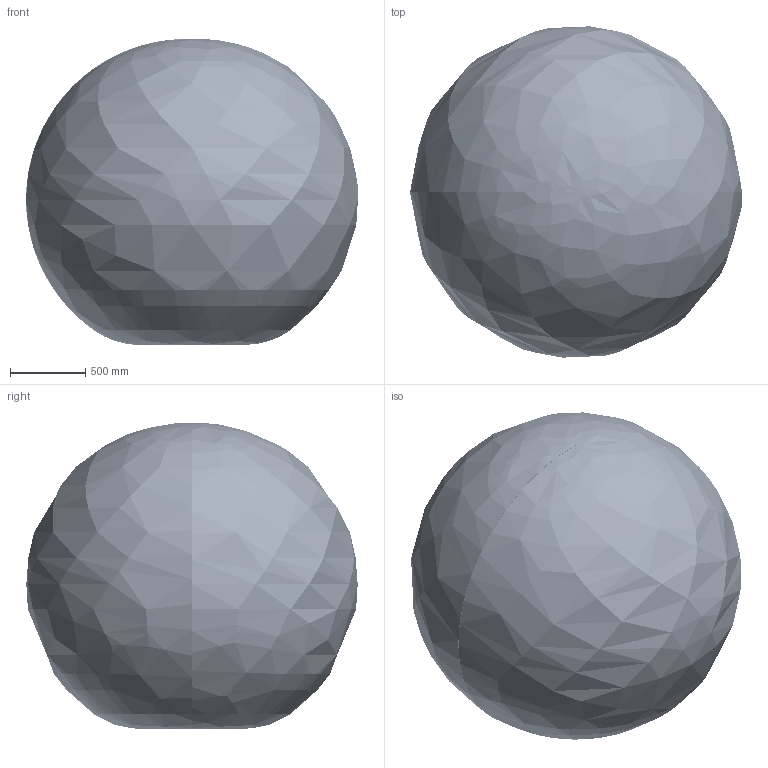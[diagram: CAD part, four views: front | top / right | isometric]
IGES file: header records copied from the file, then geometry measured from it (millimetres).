
Start section: SolidWorks IGES file using analytic representation for surfaces
Global section: file name: C:\Users\jevnim\Desktop\NEX10-06VX10-C00-00\with range\06VX10-C00_00.IGS; native system: SolidWorks 2024; preprocessor: SolidWorks 2024; author: jevnim; date: 250718.065259; units: metre
Bounding box: 2199.92 x 2195.34 x 2027.15 mm (x, y, z)
Surface area: 21198962.6 mm2 (no closed solid volume)
Topology: 0 solids, 0 shells, 11531 faces, 122418 edges, 122177 vertices
Faces by surface type: bspline 7467, revolution 4064
